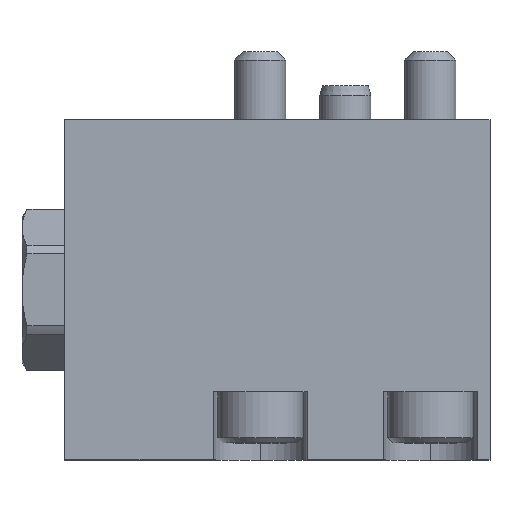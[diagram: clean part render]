
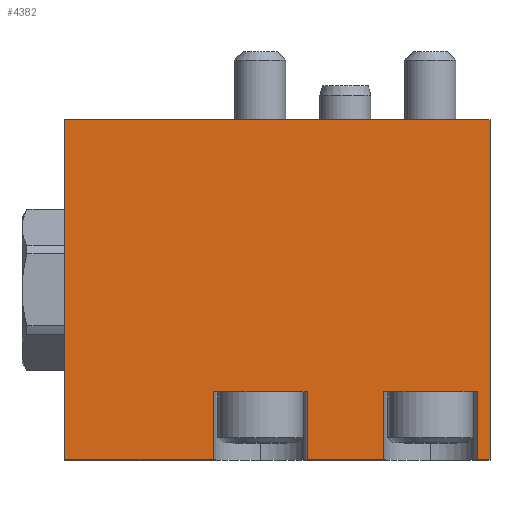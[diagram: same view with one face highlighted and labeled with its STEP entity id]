
A CAD part, top view. The second image highlights one B-rep face of the part: STEP entity #4382.
In plain terms, the highlighted planar face has unit normal (0, 0, 1).
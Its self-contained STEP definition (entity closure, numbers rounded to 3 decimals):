
#1185 = CARTESIAN_POINT ( 'NONE',  ( 23., -32., 20. ) ) ;
#1836 = CARTESIAN_POINT ( 'NONE',  ( 43., -32., 20. ) ) ;
#1906 = FACE_OUTER_BOUND ( 'NONE', #4383, .T. ) ;
#1912 = PLANE ( 'NONE',  #1966 ) ;
#1949 = CARTESIAN_POINT ( 'NONE',  ( 0., 0., 20. ) ) ;
#1950 = CARTESIAN_POINT ( 'NONE',  ( 50., 0., 20. ) ) ;
#1951 = DIRECTION ( 'NONE',  ( -1., 0., 0. ) ) ;
#1952 = VECTOR ( 'NONE', #1951, 1000. ) ;
#1953 = CARTESIAN_POINT ( 'NONE',  ( 50., 0., 20. ) ) ;
#1954 = LINE ( 'NONE', #1953, #1952 ) ;
#1959 = DIRECTION ( 'NONE',  ( 0., -1., 0. ) ) ;
#1960 = VECTOR ( 'NONE', #1959, 1000. ) ;
#1961 = CARTESIAN_POINT ( 'NONE',  ( 17.5, -32., 20. ) ) ;
#1962 = DIRECTION ( 'NONE',  ( -1., 0., 0. ) ) ;
#1963 = DIRECTION ( 'NONE',  ( 0., 0., -1. ) ) ;
#1964 = LINE ( 'NONE', #1961, #1960 ) ;
#1965 = CARTESIAN_POINT ( 'NONE',  ( 50., -40., 20. ) ) ;
#1966 = AXIS2_PLACEMENT_3D ( 'NONE', #1965, #1963, #1962 ) ;
#1997 = LINE ( 'NONE', #2061, #2060 ) ;
#1998 = CARTESIAN_POINT ( 'NONE',  ( 50., -40., 20. ) ) ;
#1999 = DIRECTION ( 'NONE',  ( -1., 0., 0. ) ) ;
#2000 = VECTOR ( 'NONE', #1999, 1000. ) ;
#2001 = CARTESIAN_POINT ( 'NONE',  ( 50., -40., 20. ) ) ;
#2002 = LINE ( 'NONE', #2001, #2000 ) ;
#2003 = CARTESIAN_POINT ( 'NONE',  ( 48.5, -40., 20. ) ) ;
#2004 = DIRECTION ( 'NONE',  ( 0., -1., 0. ) ) ;
#2005 = VECTOR ( 'NONE', #2004, 1000. ) ;
#2006 = CARTESIAN_POINT ( 'NONE',  ( 48.5, -32., 20. ) ) ;
#2007 = LINE ( 'NONE', #2006, #2005 ) ;
#2008 = CARTESIAN_POINT ( 'NONE',  ( 48.5, -32., 20. ) ) ;
#2009 = DIRECTION ( 'NONE',  ( 1., 0., 0. ) ) ;
#2010 = VECTOR ( 'NONE', #2009, 1000. ) ;
#2011 = CARTESIAN_POINT ( 'NONE',  ( 37.5, -32., 20. ) ) ;
#2012 = LINE ( 'NONE', #2011, #2010 ) ;
#2013 = DIRECTION ( 'NONE',  ( 1., 0., 0. ) ) ;
#2014 = VECTOR ( 'NONE', #2013, 1000. ) ;
#2015 = CARTESIAN_POINT ( 'NONE',  ( 37.5, -32., 20. ) ) ;
#2016 = LINE ( 'NONE', #2015, #2014 ) ;
#2017 = CARTESIAN_POINT ( 'NONE',  ( 37.5, -32., 20. ) ) ;
#2018 = DIRECTION ( 'NONE',  ( 0., -1., 0. ) ) ;
#2019 = VECTOR ( 'NONE', #2018, 1000. ) ;
#2020 = CARTESIAN_POINT ( 'NONE',  ( 37.5, -32., 20. ) ) ;
#2021 = LINE ( 'NONE', #2020, #2019 ) ;
#2038 = CARTESIAN_POINT ( 'NONE',  ( 37.5, -40., 20. ) ) ;
#2039 = DIRECTION ( 'NONE',  ( -1., 0., 0. ) ) ;
#2040 = VECTOR ( 'NONE', #2039, 1000. ) ;
#2041 = CARTESIAN_POINT ( 'NONE',  ( 50., -40., 20. ) ) ;
#2042 = LINE ( 'NONE', #2041, #2040 ) ;
#2043 = CARTESIAN_POINT ( 'NONE',  ( 28.5, -40., 20. ) ) ;
#2044 = DIRECTION ( 'NONE',  ( 0., -1., 0. ) ) ;
#2045 = VECTOR ( 'NONE', #2044, 1000. ) ;
#2046 = CARTESIAN_POINT ( 'NONE',  ( 28.5, -32., 20. ) ) ;
#2047 = LINE ( 'NONE', #2046, #2045 ) ;
#2048 = CARTESIAN_POINT ( 'NONE',  ( 28.5, -32., 20. ) ) ;
#2049 = DIRECTION ( 'NONE',  ( 1., 0., 0. ) ) ;
#2050 = VECTOR ( 'NONE', #2049, 1000. ) ;
#2051 = CARTESIAN_POINT ( 'NONE',  ( 17.5, -32., 20. ) ) ;
#2052 = LINE ( 'NONE', #2051, #2050 ) ;
#2053 = DIRECTION ( 'NONE',  ( 1., 0., 0. ) ) ;
#2054 = VECTOR ( 'NONE', #2053, 1000. ) ;
#2055 = CARTESIAN_POINT ( 'NONE',  ( 17.5, -32., 20. ) ) ;
#2056 = LINE ( 'NONE', #2055, #2054 ) ;
#2057 = CARTESIAN_POINT ( 'NONE',  ( 17.5, -40., 20. ) ) ;
#2058 = CARTESIAN_POINT ( 'NONE',  ( 17.5, -32., 20. ) ) ;
#2059 = DIRECTION ( 'NONE',  ( 0., 1., 0. ) ) ;
#2060 = VECTOR ( 'NONE', #2059, 1000. ) ;
#2061 = CARTESIAN_POINT ( 'NONE',  ( 50., -40., 20. ) ) ;
#2136 = DIRECTION ( 'NONE',  ( -1., 0., 0. ) ) ;
#2137 = VECTOR ( 'NONE', #2136, 1000. ) ;
#2138 = CARTESIAN_POINT ( 'NONE',  ( 50., -40., 20. ) ) ;
#2139 = LINE ( 'NONE', #2138, #2137 ) ;
#2140 = CARTESIAN_POINT ( 'NONE',  ( 0., -40., 20. ) ) ;
#2141 = DIRECTION ( 'NONE',  ( 0., 1., 0. ) ) ;
#2142 = VECTOR ( 'NONE', #2141, 1000. ) ;
#2143 = CARTESIAN_POINT ( 'NONE',  ( 0., -40., 20. ) ) ;
#2144 = LINE ( 'NONE', #2143, #2142 ) ;
#4015 = VERTEX_POINT ( 'NONE', #1185 ) ;
#4317 = VERTEX_POINT ( 'NONE', #1836 ) ;
#4382 = ADVANCED_FACE ( 'NONE', ( #1906 ), #1912, .F. ) ;
#4383 = EDGE_LOOP ( 'NONE', ( #4384, #4445, #4447, #4450, #4454, #4457, #4429, #4432, #4435, #4438, #4441, #4503, #4504, #4507 ) ) ;
#4384 = ORIENTED_EDGE ( 'NONE', *, *, #4385, .F. ) ;
#4385 = EDGE_CURVE ( 'NONE', #4443, #4444, #1964, .T. ) ;
#4388 = EDGE_CURVE ( 'NONE', #4389, #4390, #1954, .T. ) ;
#4389 = VERTEX_POINT ( 'NONE', #1950 ) ;
#4390 = VERTEX_POINT ( 'NONE', #1949 ) ;
#4427 = EDGE_CURVE ( 'NONE', #4428, #4456, #2021, .T. ) ;
#4428 = VERTEX_POINT ( 'NONE', #2017 ) ;
#4429 = ORIENTED_EDGE ( 'NONE', *, *, #4430, .T. ) ;
#4430 = EDGE_CURVE ( 'NONE', #4428, #4317, #2016, .T. ) ;
#4432 = ORIENTED_EDGE ( 'NONE', *, *, #4433, .T. ) ;
#4433 = EDGE_CURVE ( 'NONE', #4317, #4434, #2012, .T. ) ;
#4434 = VERTEX_POINT ( 'NONE', #2008 ) ;
#4435 = ORIENTED_EDGE ( 'NONE', *, *, #4436, .T. ) ;
#4436 = EDGE_CURVE ( 'NONE', #4434, #4437, #2007, .T. ) ;
#4437 = VERTEX_POINT ( 'NONE', #2003 ) ;
#4438 = ORIENTED_EDGE ( 'NONE', *, *, #4439, .F. ) ;
#4439 = EDGE_CURVE ( 'NONE', #4440, #4437, #2002, .T. ) ;
#4440 = VERTEX_POINT ( 'NONE', #1998 ) ;
#4441 = ORIENTED_EDGE ( 'NONE', *, *, #4442, .T. ) ;
#4442 = EDGE_CURVE ( 'NONE', #4440, #4389, #1997, .T. ) ;
#4443 = VERTEX_POINT ( 'NONE', #2058 ) ;
#4444 = VERTEX_POINT ( 'NONE', #2057 ) ;
#4445 = ORIENTED_EDGE ( 'NONE', *, *, #4446, .T. ) ;
#4446 = EDGE_CURVE ( 'NONE', #4443, #4015, #2056, .T. ) ;
#4447 = ORIENTED_EDGE ( 'NONE', *, *, #4448, .T. ) ;
#4448 = EDGE_CURVE ( 'NONE', #4015, #4449, #2052, .T. ) ;
#4449 = VERTEX_POINT ( 'NONE', #2048 ) ;
#4450 = ORIENTED_EDGE ( 'NONE', *, *, #4451, .T. ) ;
#4451 = EDGE_CURVE ( 'NONE', #4449, #4452, #2047, .T. ) ;
#4452 = VERTEX_POINT ( 'NONE', #2043 ) ;
#4454 = ORIENTED_EDGE ( 'NONE', *, *, #4455, .F. ) ;
#4455 = EDGE_CURVE ( 'NONE', #4456, #4452, #2042, .T. ) ;
#4456 = VERTEX_POINT ( 'NONE', #2038 ) ;
#4457 = ORIENTED_EDGE ( 'NONE', *, *, #4427, .F. ) ;
#4503 = ORIENTED_EDGE ( 'NONE', *, *, #4388, .T. ) ;
#4504 = ORIENTED_EDGE ( 'NONE', *, *, #4505, .F. ) ;
#4505 = EDGE_CURVE ( 'NONE', #4506, #4390, #2144, .T. ) ;
#4506 = VERTEX_POINT ( 'NONE', #2140 ) ;
#4507 = ORIENTED_EDGE ( 'NONE', *, *, #4508, .F. ) ;
#4508 = EDGE_CURVE ( 'NONE', #4444, #4506, #2139, .T. ) ;
